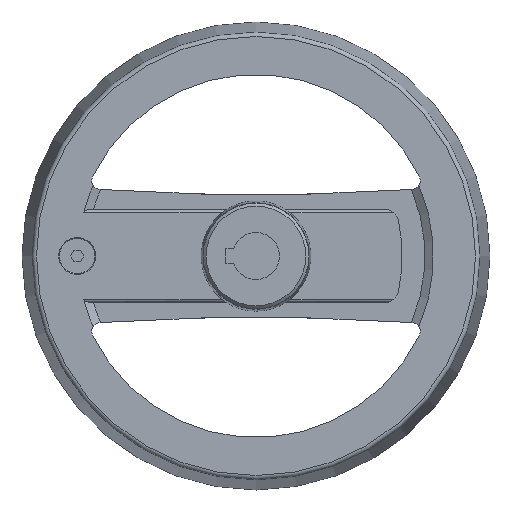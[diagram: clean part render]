
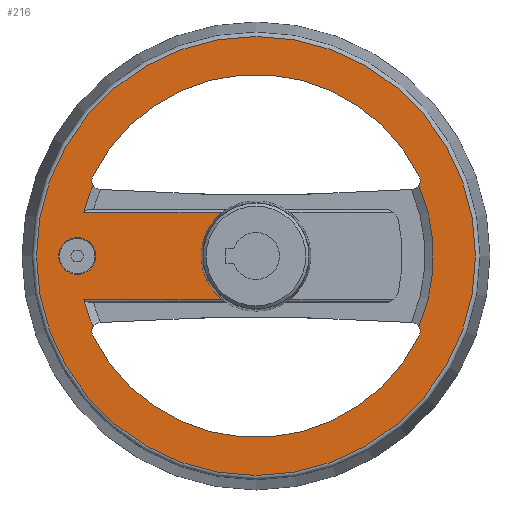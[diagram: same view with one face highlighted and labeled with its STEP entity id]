
A CAD part, left-side view. The second image highlights one B-rep face of the part: STEP entity #216.
In plain terms, the highlighted planar face has unit normal (-1, 0, 0).
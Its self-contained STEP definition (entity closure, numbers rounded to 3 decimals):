
#216 = ADVANCED_FACE( '', ( #391, #392, #393 ), #394, .F. );
#391 = FACE_OUTER_BOUND( '', #655, .T. );
#392 = FACE_BOUND( '', #656, .T. );
#393 = FACE_BOUND( '', #657, .T. );
#394 = PLANE( '', #658 );
#655 = EDGE_LOOP( '', ( #1193 ) );
#656 = EDGE_LOOP( '', ( #1194 ) );
#657 = EDGE_LOOP( '', ( #1195, #1196, #1197, #1198, #1199, #1200, #1201, #1202, #1203, #1204, #1205, #1206 ) );
#658 = AXIS2_PLACEMENT_3D( '', #1207, #1208, #1209 );
#1193 = ORIENTED_EDGE( '', *, *, #1794, .F. );
#1194 = ORIENTED_EDGE( '', *, *, #1691, .T. );
#1195 = ORIENTED_EDGE( '', *, *, #1795, .F. );
#1196 = ORIENTED_EDGE( '', *, *, #1796, .F. );
#1197 = ORIENTED_EDGE( '', *, *, #1797, .F. );
#1198 = ORIENTED_EDGE( '', *, *, #1798, .T. );
#1199 = ORIENTED_EDGE( '', *, *, #1799, .F. );
#1200 = ORIENTED_EDGE( '', *, *, #1800, .F. );
#1201 = ORIENTED_EDGE( '', *, *, #1801, .F. );
#1202 = ORIENTED_EDGE( '', *, *, #1628, .T. );
#1203 = ORIENTED_EDGE( '', *, *, #1802, .T. );
#1204 = ORIENTED_EDGE( '', *, *, #1765, .F. );
#1205 = ORIENTED_EDGE( '', *, *, #1793, .F. );
#1206 = ORIENTED_EDGE( '', *, *, #1803, .T. );
#1207 = CARTESIAN_POINT( '', ( 21.2, 62., -14.74 ) );
#1208 = DIRECTION( '', ( 1., 0., 0. ) );
#1209 = DIRECTION( '', ( 0., 0., -1. ) );
#1628 = EDGE_CURVE( '', #1870, #1878, #1880, .T. );
#1691 = EDGE_CURVE( '', #1993, #1993, #1994, .T. );
#1765 = EDGE_CURVE( '', #2122, #2123, #2124, .F. );
#1793 = EDGE_CURVE( '', #2168, #2122, #2170, .T. );
#1794 = EDGE_CURVE( '', #2171, #2171, #2172, .T. );
#1795 = EDGE_CURVE( '', #2173, #2174, #2175, .F. );
#1796 = EDGE_CURVE( '', #2176, #2173, #2177, .F. );
#1797 = EDGE_CURVE( '', #2178, #2176, #2179, .F. );
#1798 = EDGE_CURVE( '', #2178, #2180, #2181, .T. );
#1799 = EDGE_CURVE( '', #2182, #2180, #2183, .F. );
#1800 = EDGE_CURVE( '', #2184, #2182, #2185, .F. );
#1801 = EDGE_CURVE( '', #1870, #2184, #2186, .F. );
#1802 = EDGE_CURVE( '', #1878, #2123, #2187, .T. );
#1803 = EDGE_CURVE( '', #2168, #2174, #2188, .T. );
#1870 = VERTEX_POINT( '', #2285 );
#1878 = VERTEX_POINT( '', #2308 );
#1880 = CIRCLE( '', #2321, 60.57 );
#1993 = VERTEX_POINT( '', #2627 );
#1994 = CIRCLE( '', #2628, 6.3 );
#2122 = VERTEX_POINT( '', #2962 );
#2123 = VERTEX_POINT( '', #2963 );
#2124 = CIRCLE( '', #2964, 18.74 );
#2168 = VERTEX_POINT( '', #3076 );
#2170 = LINE( '', #3089, #3090 );
#2171 = VERTEX_POINT( '', #3091 );
#2172 = CIRCLE( '', #3092, 74.9 );
#2173 = VERTEX_POINT( '', #3093 );
#2174 = VERTEX_POINT( '', #3094 );
#2175 = CIRCLE( '', #3095, 2.97 );
#2176 = VERTEX_POINT( '', #3096 );
#2177 = CIRCLE( '', #3097, 61.94 );
#2178 = VERTEX_POINT( '', #3098 );
#2179 = CIRCLE( '', #3099, 2.97 );
#2180 = VERTEX_POINT( '', #3100 );
#2181 = CIRCLE( '', #3101, 60.57 );
#2182 = VERTEX_POINT( '', #3102 );
#2183 = CIRCLE( '', #3103, 2.97 );
#2184 = VERTEX_POINT( '', #3104 );
#2185 = CIRCLE( '', #3105, 61.94 );
#2186 = CIRCLE( '', #3106, 2.97 );
#2187 = LINE( '', #3107, #3108 );
#2188 = CIRCLE( '', #3109, 60.57 );
#2285 = CARTESIAN_POINT( '', ( 21.2, 55.586, -24.061 ) );
#2308 = CARTESIAN_POINT( '', ( 21.2, 58.749, -14.74 ) );
#2321 = AXIS2_PLACEMENT_3D( '', #3261, #3262, #3263 );
#2627 = CARTESIAN_POINT( '', ( 21.2, 61., -6.3 ) );
#2628 = AXIS2_PLACEMENT_3D( '', #3329, #3330, #3331 );
#2962 = CARTESIAN_POINT( '', ( 21.2, 11.573, 14.74 ) );
#2963 = CARTESIAN_POINT( '', ( 21.2, 11.573, -14.74 ) );
#2964 = AXIS2_PLACEMENT_3D( '', #3450, #3451, #3452 );
#3076 = CARTESIAN_POINT( '', ( 21.2, 58.749, 14.74 ) );
#3089 = CARTESIAN_POINT( '', ( 21.2, 62., 14.74 ) );
#3090 = VECTOR( '', #3497, 1000. );
#3091 = CARTESIAN_POINT( '', ( 21.2, 0., -74.9 ) );
#3092 = AXIS2_PLACEMENT_3D( '', #3498, #3499, #3500 );
#3093 = CARTESIAN_POINT( '', ( 21.2, 55.745, 27.002 ) );
#3094 = CARTESIAN_POINT( '', ( 21.2, 55.586, 24.061 ) );
#3095 = AXIS2_PLACEMENT_3D( '', #3501, #3502, #3503 );
#3096 = CARTESIAN_POINT( '', ( 21.2, -55.745, 27.002 ) );
#3097 = AXIS2_PLACEMENT_3D( '', #3504, #3505, #3506 );
#3098 = CARTESIAN_POINT( '', ( 21.2, -55.586, 24.061 ) );
#3099 = AXIS2_PLACEMENT_3D( '', #3507, #3508, #3509 );
#3100 = CARTESIAN_POINT( '', ( 21.2, -55.586, -24.061 ) );
#3101 = AXIS2_PLACEMENT_3D( '', #3510, #3511, #3512 );
#3102 = CARTESIAN_POINT( '', ( 21.2, -55.745, -27.002 ) );
#3103 = AXIS2_PLACEMENT_3D( '', #3513, #3514, #3515 );
#3104 = CARTESIAN_POINT( '', ( 21.2, 55.745, -27.002 ) );
#3105 = AXIS2_PLACEMENT_3D( '', #3516, #3517, #3518 );
#3106 = AXIS2_PLACEMENT_3D( '', #3519, #3520, #3521 );
#3107 = CARTESIAN_POINT( '', ( 21.2, 62., -14.74 ) );
#3108 = VECTOR( '', #3522, 1000. );
#3109 = AXIS2_PLACEMENT_3D( '', #3523, #3524, #3525 );
#3261 = CARTESIAN_POINT( '', ( 21.2, 0., 0. ) );
#3262 = DIRECTION( '', ( 1., 0., 0. ) );
#3263 = DIRECTION( '', ( 0., 0., -1. ) );
#3329 = CARTESIAN_POINT( '', ( 21.2, 61., 0. ) );
#3330 = DIRECTION( '', ( 1., 0., 0. ) );
#3331 = DIRECTION( '', ( 0., 0., -1. ) );
#3450 = CARTESIAN_POINT( '', ( 21.2, 0., 0. ) );
#3451 = DIRECTION( '', ( 1., 0., 0. ) );
#3452 = DIRECTION( '', ( 0., 0., -1. ) );
#3497 = DIRECTION( '', ( 0., -1., 0. ) );
#3498 = CARTESIAN_POINT( '', ( 21.2, 0., 0. ) );
#3499 = DIRECTION( '', ( 1., 0., 0. ) );
#3500 = DIRECTION( '', ( 0., 0., -1. ) );
#3501 = CARTESIAN_POINT( '', ( 21.2, 53.09, 25.67 ) );
#3502 = DIRECTION( '', ( 1., 0., 0. ) );
#3503 = DIRECTION( '', ( 0., 0., -1. ) );
#3504 = CARTESIAN_POINT( '', ( 21.2, 0., 0. ) );
#3505 = DIRECTION( '', ( 1., 0., 0. ) );
#3506 = DIRECTION( '', ( 0., 0., -1. ) );
#3507 = CARTESIAN_POINT( '', ( 21.2, -53.09, 25.67 ) );
#3508 = DIRECTION( '', ( 1., 0., 0. ) );
#3509 = DIRECTION( '', ( 0., 0., -1. ) );
#3510 = CARTESIAN_POINT( '', ( 21.2, 0., 0. ) );
#3511 = DIRECTION( '', ( 1., 0., 0. ) );
#3512 = DIRECTION( '', ( 0., 0., -1. ) );
#3513 = CARTESIAN_POINT( '', ( 21.2, -53.09, -25.67 ) );
#3514 = DIRECTION( '', ( 1., 0., 0. ) );
#3515 = DIRECTION( '', ( 0., 0., -1. ) );
#3516 = CARTESIAN_POINT( '', ( 21.2, 0., 0. ) );
#3517 = DIRECTION( '', ( 1., 0., 0. ) );
#3518 = DIRECTION( '', ( 0., 0., -1. ) );
#3519 = CARTESIAN_POINT( '', ( 21.2, 53.09, -25.67 ) );
#3520 = DIRECTION( '', ( 1., 0., 0. ) );
#3521 = DIRECTION( '', ( 0., 0., -1. ) );
#3522 = DIRECTION( '', ( 0., -1., 0. ) );
#3523 = CARTESIAN_POINT( '', ( 21.2, 0., 0. ) );
#3524 = DIRECTION( '', ( 1., 0., 0. ) );
#3525 = DIRECTION( '', ( 0., 0., -1. ) );
